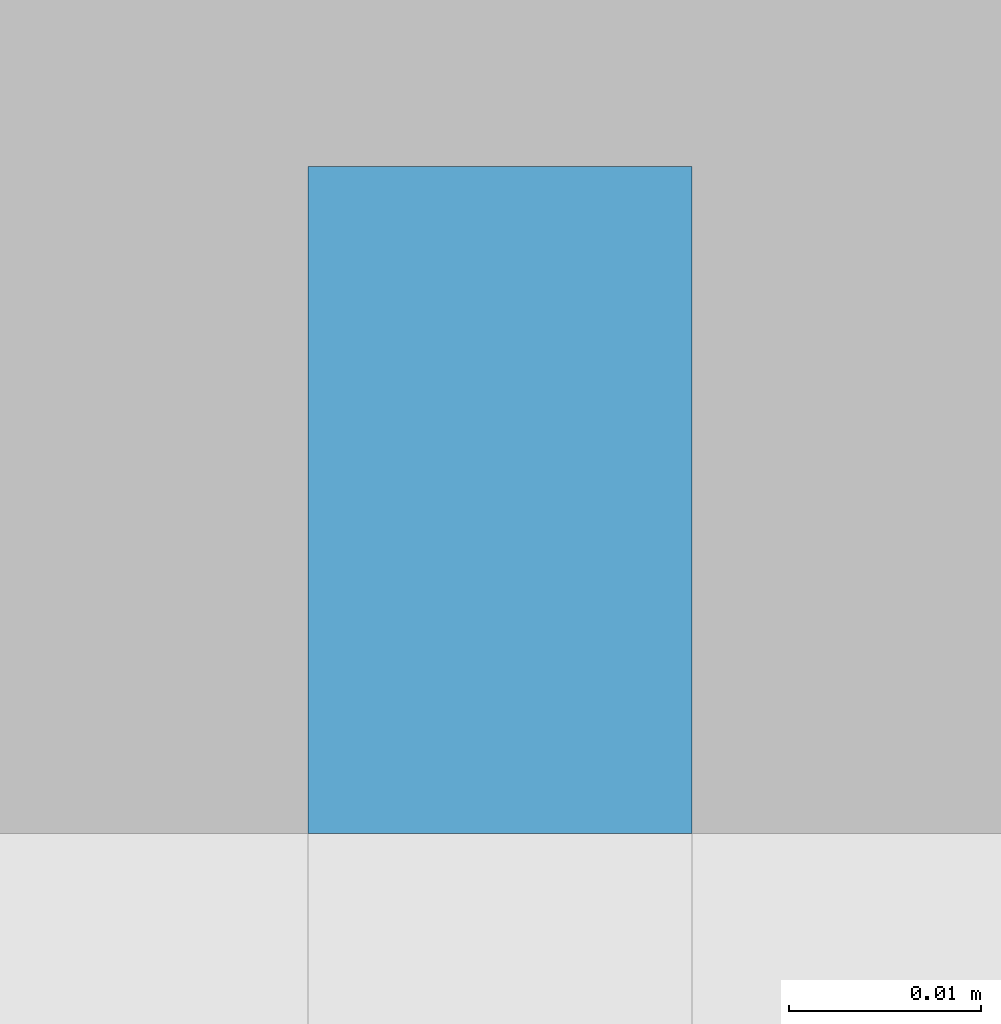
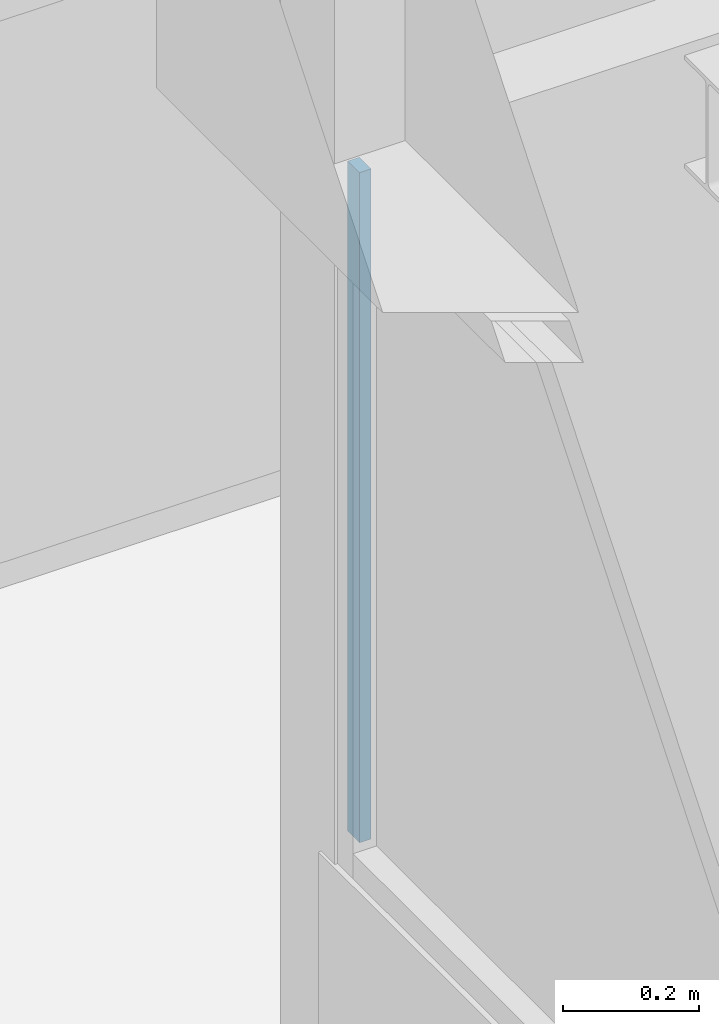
# One storey, part 36 of 117: 1 plate, 1 element without a shape of its own.
"""IFC4 building model written with IfcOpenShell, lengths in metres."""

from ifc_helpers import new_model, entity, si_unit, converted_unit, derived_unit, direction, frame, origin, place, context, subcontext, project, spatial, indexed_curve, outline, extrude, source, transform, mapped, material, type_object, type_shapes, element, aggregate, save


model = new_model("IFC4")

# Units and contexts
model_context = context("Model", 3, precision=1e-05, world=origin(), true_north=direction((6.123031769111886e-17, 1.0)))
body_context = subcontext(model_context, "Body", "Model", "MODEL_VIEW")
ifc_project = project(units=[si_unit("LENGTHUNIT", "METRE"), si_unit("AREAUNIT", "SQUARE_METRE"), si_unit("VOLUMEUNIT", "CUBIC_METRE"), converted_unit("PLANEANGLEUNIT", "DEGREE", entity("IfcRatioMeasure", 0.017453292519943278), si_unit("PLANEANGLEUNIT", "RADIAN"), dimensions=[0, 0, 0, 0, 0, 0, 0]), si_unit("MASSUNIT", "GRAM", prefix="KILO"), derived_unit("MASSDENSITYUNIT", [(si_unit("MASSUNIT", "GRAM", prefix="KILO"), 1), (si_unit("LENGTHUNIT", "METRE"), -3)]), derived_unit("MOMENTOFINERTIAUNIT", [(si_unit("LENGTHUNIT", "METRE"), 4)]), si_unit("TIMEUNIT", "SECOND"), si_unit("FREQUENCYUNIT", "HERTZ"), si_unit("THERMODYNAMICTEMPERATUREUNIT", "DEGREE_CELSIUS"), derived_unit("THERMALTRANSMITTANCEUNIT", [(si_unit("MASSUNIT", "GRAM", prefix="KILO"), 1), (si_unit("THERMODYNAMICTEMPERATUREUNIT", "KELVIN"), -1), (si_unit("TIMEUNIT", "SECOND"), -3)]), derived_unit("VOLUMETRICFLOWRATEUNIT", [(si_unit("LENGTHUNIT", "METRE"), 3), (si_unit("TIMEUNIT", "SECOND"), -1)]), derived_unit("MASSFLOWRATEUNIT", [(si_unit("MASSUNIT", "GRAM", prefix="KILO"), 1), (si_unit("TIMEUNIT", "SECOND"), -1)]), derived_unit("ROTATIONALFREQUENCYUNIT", [(si_unit("TIMEUNIT", "SECOND"), -1)]), si_unit("ELECTRICCURRENTUNIT", "AMPERE"), si_unit("ELECTRICVOLTAGEUNIT", "VOLT"), si_unit("POWERUNIT", "WATT"), si_unit("FORCEUNIT", "NEWTON", prefix="KILO"), si_unit("ILLUMINANCEUNIT", "LUX"), si_unit("LUMINOUSFLUXUNIT", "LUMEN"), si_unit("LUMINOUSINTENSITYUNIT", "CANDELA"), derived_unit("USERDEFINED", [(si_unit("MASSUNIT", "GRAM", prefix="KILO"), -1), (si_unit("LENGTHUNIT", "METRE"), -2), (si_unit("TIMEUNIT", "SECOND"), 3), (si_unit("LUMINOUSFLUXUNIT", "LUMEN"), 1)]), derived_unit("SOUNDPOWERUNIT", [(si_unit("MASSUNIT", "GRAM", prefix="KILO"), 1), (si_unit("LENGTHUNIT", "METRE"), 2), (si_unit("TIMEUNIT", "SECOND"), -3)]), derived_unit("SOUNDPRESSUREUNIT", [(si_unit("MASSUNIT", "GRAM", prefix="KILO"), 1), (si_unit("LENGTHUNIT", "METRE"), -1), (si_unit("TIMEUNIT", "SECOND"), -2)]), derived_unit("LINEARVELOCITYUNIT", [(si_unit("LENGTHUNIT", "METRE"), 1), (si_unit("TIMEUNIT", "SECOND"), -1)]), si_unit("PRESSUREUNIT", "PASCAL"), derived_unit("USERDEFINED", [(si_unit("LENGTHUNIT", "METRE"), -2), (si_unit("MASSUNIT", "GRAM", prefix="KILO"), 1), (si_unit("TIMEUNIT", "SECOND"), -2)]), derived_unit("LINEARFORCEUNIT", [(si_unit("MASSUNIT", "GRAM", prefix="KILO"), 1), (si_unit("LENGTHUNIT", "METRE"), 1), (si_unit("TIMEUNIT", "SECOND"), -2), (si_unit("LENGTHUNIT", "METRE"), -1)]), derived_unit("PLANARFORCEUNIT", [(si_unit("MASSUNIT", "GRAM", prefix="KILO"), 1), (si_unit("LENGTHUNIT", "METRE"), 1), (si_unit("TIMEUNIT", "SECOND"), -2), (si_unit("LENGTHUNIT", "METRE"), -2)])], contexts=[model_context])

# Site, building, storey
site_placement = place(None, origin())
site = spatial("IfcSite", under=ifc_project, at=site_placement, Name="Superficie", CompositionType="ELEMENT")
building_placement = place(site_placement, origin())
building = spatial("IfcBuilding", under=site, at=building_placement, CompositionType="ELEMENT")
storey_placement = place(building_placement, origin())
storey = spatial("IfcBuildingStorey", under=building, at=storey_placement, Name="Nivel 0", CompositionType="ELEMENT", Elevation=0.0)

# Curtain wall, plate
curtain_wall_type = type_object("IfcCurtainWallType", Name="Muro cortina:Muro cortina - simple", PredefinedType="NOTDEFINED")
curtain_wall_placement = place(storey_placement, origin())
curtain_wall = element("IfcCurtainWall", 1, at=curtain_wall_placement, inside=storey, type_object=curtain_wall_type, Name="Muro cortina:Muro cortina - simple", ObjectType="Muro cortina:Muro cortina - simple", PredefinedType="NOTDEFINED")
ifc_material = material(Name="Cristal", Category="Vidrio")
plate_type = type_object("IfcPlateType", Name="Panel de sistema:Acristalado", PredefinedType="CURTAIN_PANEL", material=ifc_material)
shared_shape = source(origin(), body_context, "Body", "SweptSolid", [
    extrude(outline(indexed_curve([(-0.01, -0.01737404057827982), (0.01, -0.01737404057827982), (0.01, 0.01737404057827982), (-0.01, 0.01737404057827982), (-0.01, -0.01737404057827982)], self_intersect=False)), frame((0.0, 0.0, 0.0), z_axis=(0.0, 0.0, 1.0), x_axis=(0.0, 1.0, 0.0)), (0.0, 0.0, 1.0), 1.2049999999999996),
])
type_shapes(plate_type, [shared_shape])
plate_placement = place(curtain_wall_placement, frame((0.7267990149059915, 3.4680878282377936, 1.12), z_axis=(0.0, 0.0, 1.0), x_axis=(0.0, -1.0, 0.0)))
plate = element("IfcPlate", 2, at=plate_placement, type_object=plate_type, material=ifc_material, Name="Panel de sistema:Acristalado", ObjectType="Panel de sistema:Acristalado", PredefinedType="CURTAIN_PANEL", context=body_context, shape_type="MappedRepresentation", body=[
    mapped(shared_shape, transform((0.0, 0.0, 0.0), scale=1.0)),
])
aggregate(curtain_wall, [plate])

save(model, "model.ifc")
